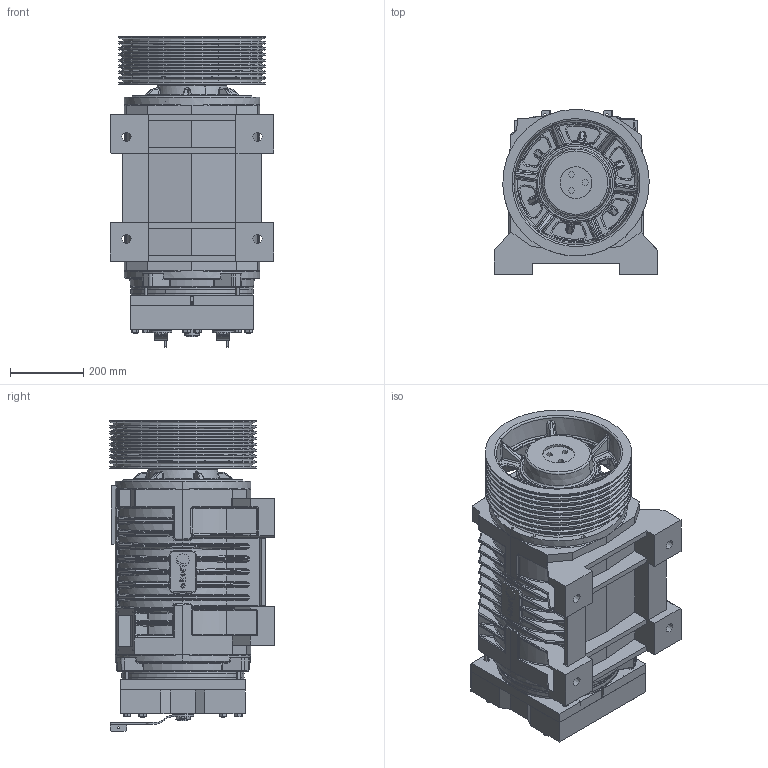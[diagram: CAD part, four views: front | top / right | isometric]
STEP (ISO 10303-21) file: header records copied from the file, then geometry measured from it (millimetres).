
FILE_DESCRIPTION (( 'STEP AP214' ), '1' );
FILE_NAME ('QS640250100.STEP', '2026-01-14T07:59:11', ( '' ), ( '' ), 'SwSTEP 2.0', 'SolidWorks 2023', '' );
FILE_SCHEMA (( 'AUTOMOTIVE_DESIGN' ));
Length unit declared in the file: millimetre
Products named in the file (1): QS640250100
Bounding box: 445.91 x 449.88 x 848.27 mm (x, y, z)
Topology: 63 solids, 66 shells, 4322 faces, 10230 edges, 6070 vertices
Faces by surface type: cylinder 1349, plane 1088, bspline 739, cone 459, sphere 367, torus 320
Entity records: 152048 total; most frequent: CARTESIAN_POINT 57178, ORIENTED_EDGE 20078, DIRECTION 19570, EDGE_CURVE 10039, AXIS2_PLACEMENT_3D 8037, VERTEX_POINT 6032, EDGE_LOOP 4685, CIRCLE 4453
